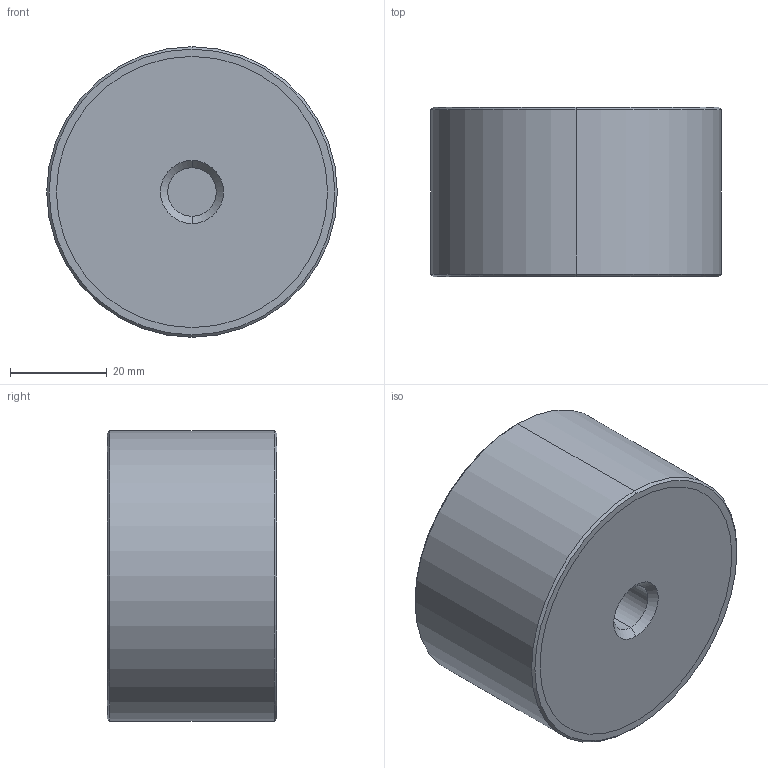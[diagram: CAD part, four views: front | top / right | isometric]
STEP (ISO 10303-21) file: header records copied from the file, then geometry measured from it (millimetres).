
FILE_DESCRIPTION (( 'STEP AP203' ), '1' );
FILE_NAME ('61080.W0601.step', '2018-07-16T20:45:31', ( '' ), ( '' ), 'SwSTEP 2.0', 'SolidWorks 2017', '' );
FILE_SCHEMA (( 'CONFIG_CONTROL_DESIGN' ));
Length unit declared in the file: millimetre
Products named in the file (4): 61080.W0601; Part3_61080.W0601; Part2_61080.W0601; Part1_61080.W0601
Assembly tree (3 placements, depth 2):
  61080.W0601
    Part1_61080.W0601
    Part2_61080.W0601
    Part3_61080.W0601
Bounding box: 60 x 35 x 60 mm (x, y, z)
Volume: 97264.8 mm3; surface area: 23313.6 mm2
Topology: 3 solids, 3 shells, 32 faces, 62 edges, 40 vertices
Faces by surface type: cylinder 14, plane 10, cone 8
Entity records: 1256 total; most frequent: DIRECTION 178, CARTESIAN_POINT 140, ORIENTED_EDGE 124, AXIS2_PLACEMENT_3D 78, EDGE_CURVE 62, CIRCLE 40, VERTEX_POINT 40, EDGE_LOOP 40
